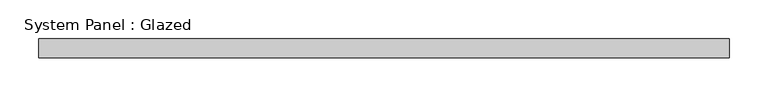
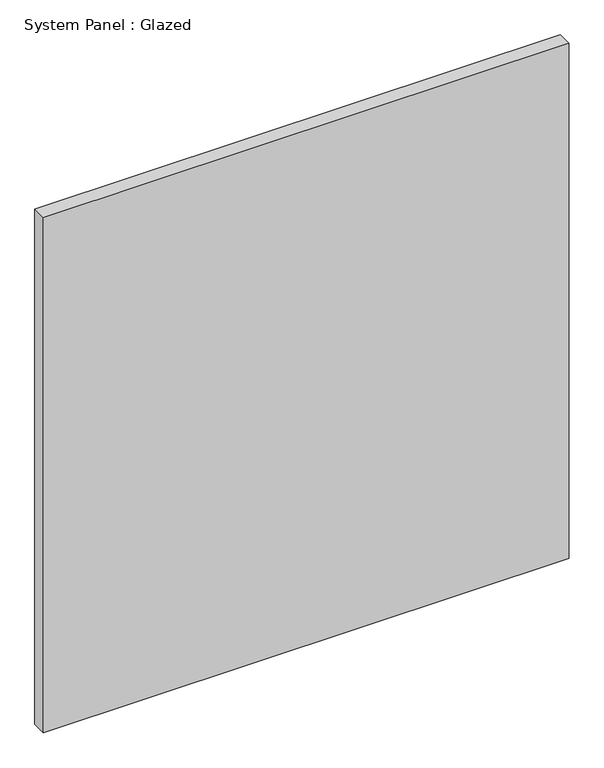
"""IFC4 building model written with IfcOpenShell, lengths in millimetres: plate geometry, System Panel : Glazed."""

from ifc_helpers import new_model, si_unit, origin, origin_with_axes, place, context, project, spatial, polyline, outline, extrude, source, transform, mapped, element, save


def system_panel_glazed_4d51f839(model_context):
    return source(origin(), model_context, "Body", "SweptSolid", [
        extrude(outline(polyline([(447.0, -72.5), (-447.0, -72.5), (-447.0, -47.5), (447.0, -47.5), (447.0, -72.5)])), origin_with_axes(), (0.0, 0.0, 1.0), 926.3515371),
    ])


if __name__ == "__main__":
    model = new_model("IFC4")
    model_context = context("Model", 3, world=origin())
    ifc_project = project(units=[si_unit("LENGTHUNIT", "METRE", prefix="MILLI")], contexts=[model_context])
    site = spatial("IfcSite", under=ifc_project)
    building = spatial("IfcBuilding", under=site)
    placement = place(None, origin())
    system_panel_glazed_shape = system_panel_glazed_4d51f839(model_context)
    element("IfcPlate", 1, ObjectType="System Panel : Glazed", at=placement, inside=building, context=model_context, shape_type="MappedRepresentation", body=[
        mapped(system_panel_glazed_shape, transform((0.0, 0.0, 0.0), x_axis=(1.0, 0.0, 0.0), y_axis=(0.0, 1.0, 0.0), z_axis=(0.0, 0.0, 1.0))),
    ])
    save(model, "model.ifc")
